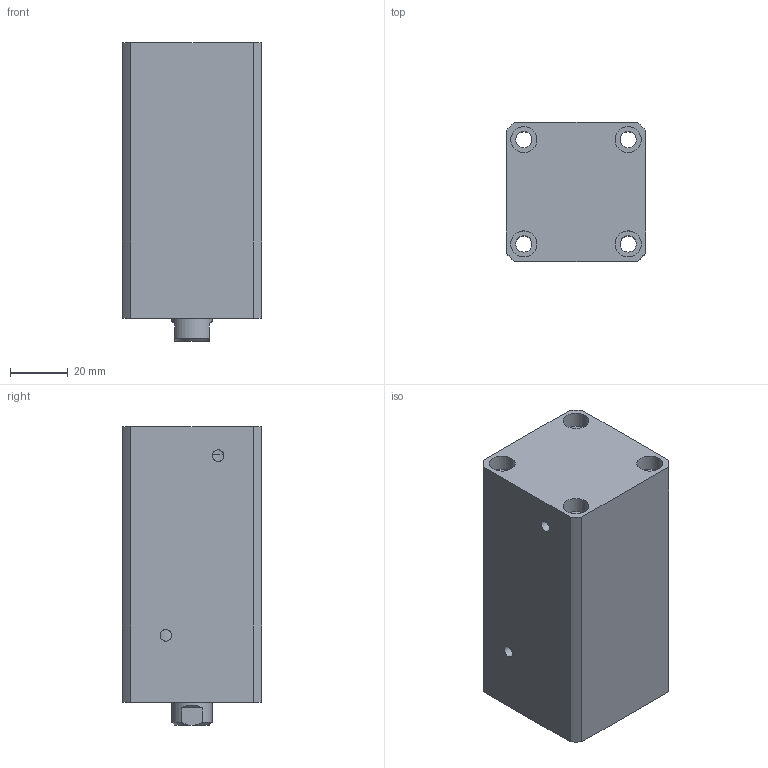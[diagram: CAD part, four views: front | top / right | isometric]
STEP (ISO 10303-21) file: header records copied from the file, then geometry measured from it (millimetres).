
FILE_DESCRIPTION(/* description */ (''),/* implementation_level */ '2;1');
FILE_NAME(/* name */ 'CHTB-sdma25x50n.stp',/* time_stamp */ '2022-04-29T14:56:23+08:00',/* author */ (''),/* organization */ (''),/* preprocessor_version */ 'ST-DEVELOPER v16.7',/* originating_system */ 'SIEMENS PLM Software NX 12.0',/* authorisation */ '');
FILE_SCHEMA (('AUTOMOTIVE_DESIGN { 1 0 10303 214 3 1 1 1 }'));
Length unit declared in the file: millimetre
Products named in the file (1): CHTB-sdma25x50n
Bounding box: 48 x 48 x 103 mm (x, y, z)
Volume: 187178.7 mm3; surface area: 49342.6 mm2
Topology: 3 solids, 3 shells, 471 faces, 1256 edges, 837 vertices
Faces by surface type: plane 299, extrusion 116, cylinder 42, bspline 8, cone 5, torus 1
Full cylindrical faces by diameter (mm): 2.5 x2, 3 x2, 4 x2, 5.6 x4, 7 x2, 8.5 x1, 9 x8, 14 x2, 21 x2, 23 x2, 25 x5, 31 x1
Entity records: 21752 total; most frequent: CARTESIAN_POINT 7922, ORIENTED_EDGE 2406, DIRECTION 1836, EDGE_CURVE 1203, VECTOR 972, LINE 856, VERTEX_POINT 826, EDGE_LOOP 574
